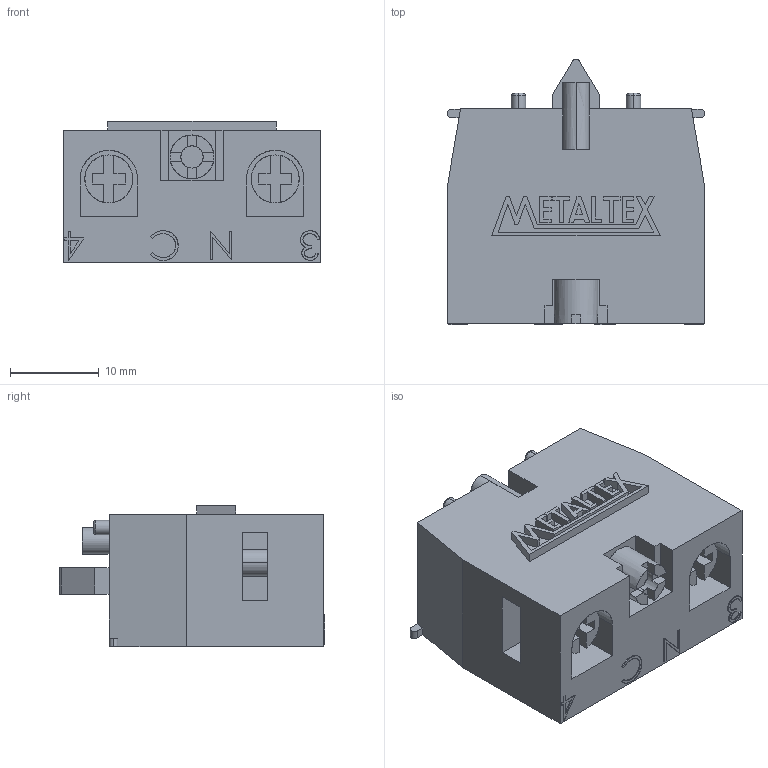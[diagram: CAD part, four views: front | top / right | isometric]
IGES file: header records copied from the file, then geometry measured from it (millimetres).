
Start section: SolidWorks IGES file using analytic representation for surfaces
Global section: file name: D:\X - Arquivos\PROEX\Empresas\P11 - METALTEX\01 - Produtos\IGES\Primeira remessa\M20-1A.IGS; native system: SolidWorks 2012; preprocessor: SolidWorks 2012; author: Usuario; date: 180117.114228; units: millimetre
Bounding box: 29 x 29.9 x 15.9 mm (x, y, z)
Surface area: 4294.3 mm2 (no closed solid volume)
Topology: 0 solids, 0 shells, 274 faces, 2384 edges, 2384 vertices
Faces by surface type: bspline 249, revolution 25
